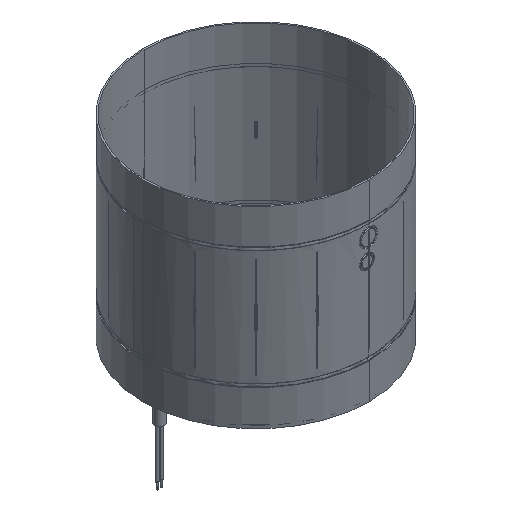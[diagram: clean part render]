
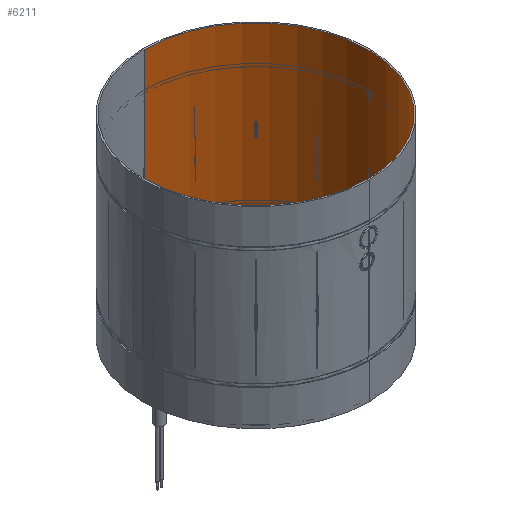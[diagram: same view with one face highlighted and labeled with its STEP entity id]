
A CAD part, isometric view. The second image highlights one B-rep face of the part: STEP entity #6211.
In plain terms, the highlighted cylindrical face has radius 78.521 mm (diameter 157.042 mm), a partial arc.
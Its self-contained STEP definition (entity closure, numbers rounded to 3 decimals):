
#658 = CARTESIAN_POINT ( 'NONE',  ( 0., 78.521, 178.142 ) ) ;
#708 = DIRECTION ( 'NONE',  ( 0., 0., -1. ) ) ;
#944 = DIRECTION ( 'NONE',  ( 0., 0., -1. ) ) ;
#948 = DIRECTION ( 'NONE',  ( 0., 1., 0. ) ) ;
#949 = CARTESIAN_POINT ( 'NONE',  ( 0., 0., 178.142 ) ) ;
#1039 = DIRECTION ( 'NONE',  ( 0., 1., 0. ) ) ;
#1180 = DIRECTION ( 'NONE',  ( 0., 0., -1. ) ) ;
#1274 = CARTESIAN_POINT ( 'NONE',  ( 0., 0., 45.142 ) ) ;
#1796 = EDGE_CURVE ( 'NONE', #5430, #5033, #3532, .T. ) ;
#1847 = AXIS2_PLACEMENT_3D ( 'NONE', #949, #944, #948 ) ;
#1889 = EDGE_CURVE ( 'NONE', #5257, #5430, #3861, .T. ) ;
#1930 = EDGE_CURVE ( 'NONE', #5044, #5033, #3388, .T. ) ;
#2006 = AXIS2_PLACEMENT_3D ( 'NONE', #1274, #708, #1039 ) ;
#2054 = EDGE_CURVE ( 'NONE', #5257, #5044, #3916, .T. ) ;
#2661 = DIRECTION ( 'NONE',  ( 0., 0., -1. ) ) ;
#2663 = CARTESIAN_POINT ( 'NONE',  ( 0., 0., 178.142 ) ) ;
#2665 = DIRECTION ( 'NONE',  ( 0., 1., 0. ) ) ;
#3045 = CARTESIAN_POINT ( 'NONE',  ( 0., -78.521, 178.142 ) ) ;
#3153 = CARTESIAN_POINT ( 'NONE',  ( 0., -78.521, 45.142 ) ) ;
#3261 = CARTESIAN_POINT ( 'NONE',  ( 0., 78.521, 45.142 ) ) ;
#3292 = CARTESIAN_POINT ( 'NONE',  ( 0., 78.521, 178.142 ) ) ;
#3388 = CIRCLE ( 'NONE', #2006, 78.521 ) ;
#3394 = FACE_OUTER_BOUND ( 'NONE', #5318, .T. ) ;
#3505 = ORIENTED_EDGE ( 'NONE', *, *, #1889, .F. ) ;
#3532 = LINE ( 'NONE', #4120, #3633 ) ;
#3633 = VECTOR ( 'NONE', #4738, 1000. ) ;
#3656 = VECTOR ( 'NONE', #1180, 1000. ) ;
#3845 = CYLINDRICAL_SURFACE ( 'NONE', #7384, 78.521 ) ;
#3861 = CIRCLE ( 'NONE', #1847, 78.521 ) ;
#3916 = LINE ( 'NONE', #658, #3656 ) ;
#4120 = CARTESIAN_POINT ( 'NONE',  ( 0., -78.521, 178.142 ) ) ;
#4600 = ORIENTED_EDGE ( 'NONE', *, *, #1930, .T. ) ;
#4645 = ORIENTED_EDGE ( 'NONE', *, *, #2054, .T. ) ;
#4651 = ORIENTED_EDGE ( 'NONE', *, *, #1796, .F. ) ;
#4738 = DIRECTION ( 'NONE',  ( 0., 0., -1. ) ) ;
#5033 = VERTEX_POINT ( 'NONE', #3153 ) ;
#5044 = VERTEX_POINT ( 'NONE', #3261 ) ;
#5257 = VERTEX_POINT ( 'NONE', #3292 ) ;
#5318 = EDGE_LOOP ( 'NONE', ( #4651, #3505, #4645, #4600 ) ) ;
#5430 = VERTEX_POINT ( 'NONE', #3045 ) ;
#6211 = ADVANCED_FACE ( 'NONE', ( #3394 ), #3845, .F. ) ;
#7384 = AXIS2_PLACEMENT_3D ( 'NONE', #2663, #2661, #2665 ) ;
